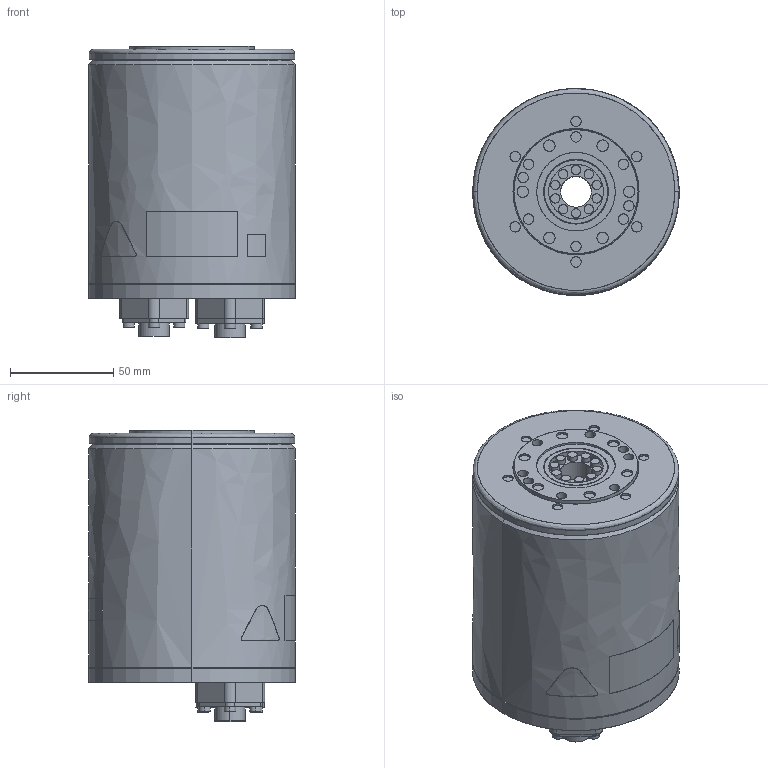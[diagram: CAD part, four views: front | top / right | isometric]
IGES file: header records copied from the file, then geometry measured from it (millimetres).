
Start section: SolidWorks IGES file using analytic representation for surfaces
Bounding box: 100 x 100.2 x 141.1 mm (x, y, z)
Surface area: 67463 mm2 (no closed solid volume)
Topology: 0 solids, 0 shells, 348 faces, 6909 edges, 6909 vertices
Faces by surface type: revolution 195, bspline 153
